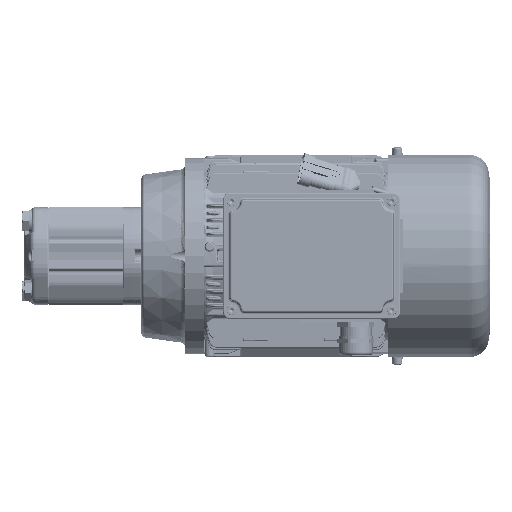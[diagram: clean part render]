
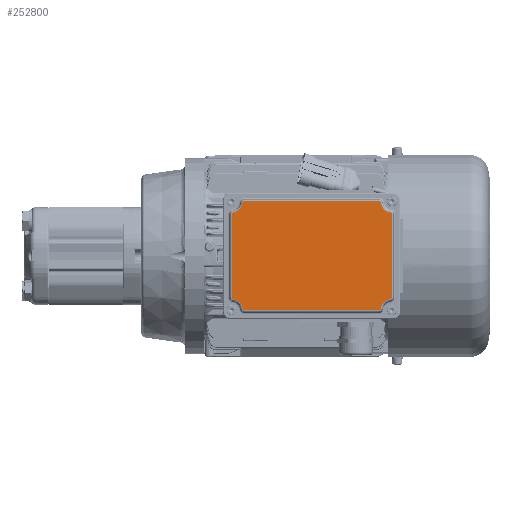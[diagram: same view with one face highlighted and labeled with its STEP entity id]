
A CAD part, top view. The second image highlights one B-rep face of the part: STEP entity #252800.
In plain terms, the highlighted planar face has unit normal (0, 0, 1).
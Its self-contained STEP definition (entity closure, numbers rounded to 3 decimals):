
#6525=ELLIPSE('',#269910,1.504,1.5);
#6526=ELLIPSE('',#269911,1.504,1.5);
#6527=ELLIPSE('',#269913,1.504,1.5);
#6528=ELLIPSE('',#269914,1.504,1.5);
#6529=ELLIPSE('',#269916,1.504,1.5);
#6530=ELLIPSE('',#269917,1.504,1.5);
#6531=ELLIPSE('',#269919,1.504,1.5);
#6532=ELLIPSE('',#269920,1.504,1.5);
#11774=CIRCLE('',#269909,9.633);
#11775=CIRCLE('',#269912,9.633);
#11776=CIRCLE('',#269915,9.633);
#11777=CIRCLE('',#269918,9.633);
#22528=PLANE('',#269908);
#30404=FACE_OUTER_BOUND('',#45377,.T.);
#45377=EDGE_LOOP('',(#170109,#170110,#170111,#170112,#170113,#170114,#170115,
#170116,#170117,#170118,#170119,#170120,#170121,#170122,#170123,#170124));
#62437=LINE('',#440977,#79863);
#62438=LINE('',#440985,#79864);
#62439=LINE('',#440993,#79865);
#62440=LINE('',#441001,#79866);
#79863=VECTOR('',#304255,1000.);
#79864=VECTOR('',#304262,1000.);
#79865=VECTOR('',#304269,1000.);
#79866=VECTOR('',#304276,1000.);
#102951=VERTEX_POINT('',#440971);
#102952=VERTEX_POINT('',#440972);
#102953=VERTEX_POINT('',#440974);
#102954=VERTEX_POINT('',#440976);
#102955=VERTEX_POINT('',#440978);
#102956=VERTEX_POINT('',#440980);
#102957=VERTEX_POINT('',#440982);
#102958=VERTEX_POINT('',#440984);
#102959=VERTEX_POINT('',#440986);
#102960=VERTEX_POINT('',#440988);
#102961=VERTEX_POINT('',#440990);
#102962=VERTEX_POINT('',#440992);
#102963=VERTEX_POINT('',#440994);
#102964=VERTEX_POINT('',#440996);
#102965=VERTEX_POINT('',#440998);
#102966=VERTEX_POINT('',#441000);
#127850=EDGE_CURVE('',#102951,#102952,#11774,.T.);
#127851=EDGE_CURVE('',#102952,#102953,#6525,.T.);
#127852=EDGE_CURVE('',#102953,#102954,#62437,.T.);
#127853=EDGE_CURVE('',#102954,#102955,#6526,.T.);
#127854=EDGE_CURVE('',#102955,#102956,#11775,.T.);
#127855=EDGE_CURVE('',#102956,#102957,#6527,.T.);
#127856=EDGE_CURVE('',#102957,#102958,#62438,.T.);
#127857=EDGE_CURVE('',#102958,#102959,#6528,.T.);
#127858=EDGE_CURVE('',#102959,#102960,#11776,.T.);
#127859=EDGE_CURVE('',#102960,#102961,#6529,.T.);
#127860=EDGE_CURVE('',#102961,#102962,#62439,.T.);
#127861=EDGE_CURVE('',#102962,#102963,#6530,.T.);
#127862=EDGE_CURVE('',#102963,#102964,#11777,.T.);
#127863=EDGE_CURVE('',#102964,#102965,#6531,.T.);
#127864=EDGE_CURVE('',#102965,#102966,#62440,.T.);
#127865=EDGE_CURVE('',#102966,#102951,#6532,.T.);
#170109=ORIENTED_EDGE('',*,*,#127850,.T.);
#170110=ORIENTED_EDGE('',*,*,#127851,.T.);
#170111=ORIENTED_EDGE('',*,*,#127852,.T.);
#170112=ORIENTED_EDGE('',*,*,#127853,.T.);
#170113=ORIENTED_EDGE('',*,*,#127854,.T.);
#170114=ORIENTED_EDGE('',*,*,#127855,.T.);
#170115=ORIENTED_EDGE('',*,*,#127856,.T.);
#170116=ORIENTED_EDGE('',*,*,#127857,.T.);
#170117=ORIENTED_EDGE('',*,*,#127858,.T.);
#170118=ORIENTED_EDGE('',*,*,#127859,.T.);
#170119=ORIENTED_EDGE('',*,*,#127860,.T.);
#170120=ORIENTED_EDGE('',*,*,#127861,.T.);
#170121=ORIENTED_EDGE('',*,*,#127862,.T.);
#170122=ORIENTED_EDGE('',*,*,#127863,.T.);
#170123=ORIENTED_EDGE('',*,*,#127864,.T.);
#170124=ORIENTED_EDGE('',*,*,#127865,.T.);
#252800=ADVANCED_FACE('',(#30404),#22528,.T.);
#269908=AXIS2_PLACEMENT_3D('',#440970,#304249,#304250);
#269909=AXIS2_PLACEMENT_3D('',#440973,#304251,#304252);
#269910=AXIS2_PLACEMENT_3D('',#440975,#304253,#304254);
#269911=AXIS2_PLACEMENT_3D('',#440979,#304256,#304257);
#269912=AXIS2_PLACEMENT_3D('',#440981,#304258,#304259);
#269913=AXIS2_PLACEMENT_3D('',#440983,#304260,#304261);
#269914=AXIS2_PLACEMENT_3D('',#440987,#304263,#304264);
#269915=AXIS2_PLACEMENT_3D('',#440989,#304265,#304266);
#269916=AXIS2_PLACEMENT_3D('',#440991,#304267,#304268);
#269917=AXIS2_PLACEMENT_3D('',#440995,#304270,#304271);
#269918=AXIS2_PLACEMENT_3D('',#440997,#304272,#304273);
#269919=AXIS2_PLACEMENT_3D('',#440999,#304274,#304275);
#269920=AXIS2_PLACEMENT_3D('',#441002,#304277,#304278);
#304249=DIRECTION('center_axis',(0.,0.,
1.));
#304250=DIRECTION('ref_axis',(0.,-1.,0.));
#304251=DIRECTION('center_axis',(0.,0.,
-1.));
#304252=DIRECTION('ref_axis',(1.,0.,0.));
#304253=DIRECTION('center_axis',(0.,0.,
1.));
#304254=DIRECTION('ref_axis',(0.663,0.748,0.));
#304255=DIRECTION('',(-1.,0.,0.));
#304256=DIRECTION('center_axis',(0.,0.,
1.));
#304257=DIRECTION('ref_axis',(-0.663,0.748,0.));
#304258=DIRECTION('center_axis',(0.,0.,
-1.));
#304259=DIRECTION('ref_axis',(1.,0.,0.));
#304260=DIRECTION('center_axis',(0.,0.,
1.));
#304261=DIRECTION('ref_axis',(-0.756,0.655,0.));
#304262=DIRECTION('',(0.,-1.,0.));
#304263=DIRECTION('center_axis',(0.,0.,
1.));
#304264=DIRECTION('ref_axis',(-0.756,-0.655,0.));
#304265=DIRECTION('center_axis',(0.,0.,
-1.));
#304266=DIRECTION('ref_axis',(1.,0.,0.));
#304267=DIRECTION('center_axis',(0.,0.,
1.));
#304268=DIRECTION('ref_axis',(0.663,0.748,0.));
#304269=DIRECTION('',(1.,0.,0.));
#304270=DIRECTION('center_axis',(0.,0.,
1.));
#304271=DIRECTION('ref_axis',(-0.663,0.748,0.));
#304272=DIRECTION('center_axis',(0.,0.,
-1.));
#304273=DIRECTION('ref_axis',(1.,0.,0.));
#304274=DIRECTION('center_axis',(0.,0.,
1.));
#304275=DIRECTION('ref_axis',(-0.756,0.655,0.));
#304276=DIRECTION('',(0.,1.,0.));
#304277=DIRECTION('center_axis',(0.,0.,
1.));
#304278=DIRECTION('ref_axis',(-0.756,-0.655,0.));
#440970=CARTESIAN_POINT('Origin',(-70.842,-0.1,
150.6));
#440971=CARTESIAN_POINT('',(-2.96,37.365,150.6));
#440972=CARTESIAN_POINT('',(-11.156,45.748,150.6));
#440973=CARTESIAN_POINT('Origin',(-1.592,46.9,150.6));
#440974=CARTESIAN_POINT('',(-12.643,47.067,150.6));
#440975=CARTESIAN_POINT('Origin',(-12.647,45.565,150.6));
#440976=CARTESIAN_POINT('',(-129.041,47.067,150.6));
#440977=CARTESIAN_POINT('',(-128.975,47.067,150.6));
#440978=CARTESIAN_POINT('',(-130.528,45.748,150.6));
#440979=CARTESIAN_POINT('Origin',(-129.037,45.565,150.6));
#440980=CARTESIAN_POINT('',(-138.724,37.365,150.6));
#440981=CARTESIAN_POINT('Origin',(-140.092,46.9,150.6));
#440982=CARTESIAN_POINT('',(-140.009,35.882,150.6));
#440983=CARTESIAN_POINT('Origin',(-138.507,35.878,150.6));
#440984=CARTESIAN_POINT('',(-140.009,-36.082,150.6));
#440985=CARTESIAN_POINT('',(-140.009,-36.017,150.6));
#440986=CARTESIAN_POINT('',(-138.724,-37.565,150.6));
#440987=CARTESIAN_POINT('Origin',(-138.507,-36.078,150.6));
#440988=CARTESIAN_POINT('',(-130.528,-45.948,150.6));
#440989=CARTESIAN_POINT('Origin',(-140.092,-47.1,150.6));
#440990=CARTESIAN_POINT('',(-129.041,-47.267,150.6));
#440991=CARTESIAN_POINT('Origin',(-129.037,-45.765,150.6));
#440992=CARTESIAN_POINT('',(-12.643,-47.267,150.6));
#440993=CARTESIAN_POINT('',(-12.709,-47.267,150.6));
#440994=CARTESIAN_POINT('',(-11.156,-45.948,150.6));
#440995=CARTESIAN_POINT('Origin',(-12.647,-45.765,150.6));
#440996=CARTESIAN_POINT('',(-2.96,-37.565,150.6));
#440997=CARTESIAN_POINT('Origin',(-1.592,-47.1,150.6));
#440998=CARTESIAN_POINT('',(-1.675,-36.082,150.6));
#440999=CARTESIAN_POINT('Origin',(-3.177,-36.078,150.6));
#441000=CARTESIAN_POINT('',(-1.675,35.882,150.6));
#441001=CARTESIAN_POINT('',(-1.675,35.817,150.6));
#441002=CARTESIAN_POINT('Origin',(-3.177,35.878,150.6));
